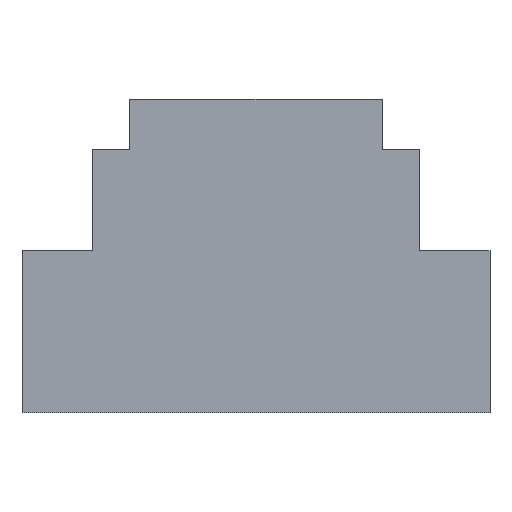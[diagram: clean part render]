
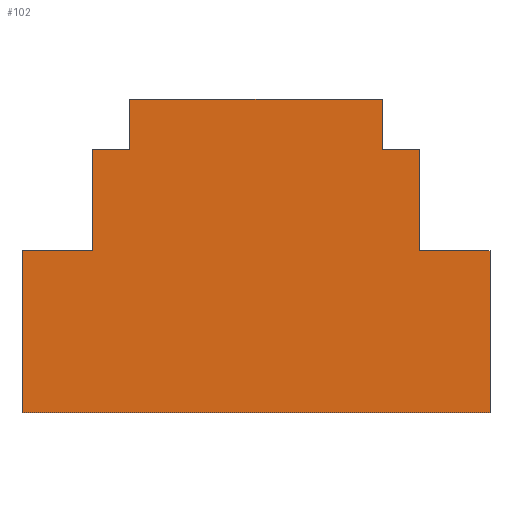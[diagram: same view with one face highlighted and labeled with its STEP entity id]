
A CAD part, top view. The second image highlights one B-rep face of the part: STEP entity #102.
In plain terms, the highlighted planar face has unit normal (0, 0, 1).
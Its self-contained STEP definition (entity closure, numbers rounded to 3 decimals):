
#75=FACE_OUTER_BOUND('',#201,.T.);
#102=ADVANCED_FACE('',(#75),#137,.T.);
#137=PLANE('',#589);
#201=EDGE_LOOP('',(#292,#293,#294,#295,#296,#297,#298,#299,#300,#301,#302,
#303));
#292=ORIENTED_EDGE('',*,*,#410,.T.);
#293=ORIENTED_EDGE('',*,*,#418,.T.);
#294=ORIENTED_EDGE('',*,*,#421,.T.);
#295=ORIENTED_EDGE('',*,*,#424,.T.);
#296=ORIENTED_EDGE('',*,*,#431,.T.);
#297=ORIENTED_EDGE('',*,*,#434,.T.);
#298=ORIENTED_EDGE('',*,*,#437,.T.);
#299=ORIENTED_EDGE('',*,*,#440,.T.);
#300=ORIENTED_EDGE('',*,*,#447,.T.);
#301=ORIENTED_EDGE('',*,*,#450,.T.);
#302=ORIENTED_EDGE('',*,*,#453,.T.);
#303=ORIENTED_EDGE('',*,*,#455,.T.);
#362=VERTEX_POINT('',#777);
#363=VERTEX_POINT('',#779);
#369=VERTEX_POINT('',#793);
#371=VERTEX_POINT('',#799);
#373=VERTEX_POINT('',#805);
#379=VERTEX_POINT('',#819);
#381=VERTEX_POINT('',#825);
#383=VERTEX_POINT('',#831);
#385=VERTEX_POINT('',#837);
#391=VERTEX_POINT('',#851);
#393=VERTEX_POINT('',#857);
#395=VERTEX_POINT('',#863);
#410=EDGE_CURVE('',#363,#362,#474,.T.);
#418=EDGE_CURVE('',#362,#369,#482,.T.);
#421=EDGE_CURVE('',#369,#371,#485,.T.);
#424=EDGE_CURVE('',#371,#373,#488,.T.);
#431=EDGE_CURVE('',#373,#379,#491,.T.);
#434=EDGE_CURVE('',#379,#381,#494,.T.);
#437=EDGE_CURVE('',#381,#383,#497,.T.);
#440=EDGE_CURVE('',#383,#385,#500,.T.);
#447=EDGE_CURVE('',#385,#391,#503,.T.);
#450=EDGE_CURVE('',#391,#393,#506,.T.);
#453=EDGE_CURVE('',#393,#395,#509,.T.);
#455=EDGE_CURVE('',#395,#363,#511,.T.);
#474=LINE('',#778,#522);
#482=LINE('',#794,#530);
#485=LINE('',#800,#533);
#488=LINE('',#806,#536);
#491=LINE('',#820,#539);
#494=LINE('',#826,#542);
#497=LINE('',#832,#545);
#500=LINE('',#838,#548);
#503=LINE('',#852,#551);
#506=LINE('',#858,#554);
#509=LINE('',#864,#557);
#511=LINE('',#867,#559);
#522=VECTOR('',#624,1.);
#530=VECTOR('',#634,1.);
#533=VECTOR('',#639,1.);
#536=VECTOR('',#644,1.);
#539=VECTOR('',#657,1.);
#542=VECTOR('',#662,1.);
#545=VECTOR('',#667,1.);
#548=VECTOR('',#672,1.);
#551=VECTOR('',#685,1.);
#554=VECTOR('',#690,1.);
#557=VECTOR('',#695,1.);
#559=VECTOR('',#699,1.);
#589=AXIS2_PLACEMENT_3D('',#869,#702,#703);
#624=DIRECTION('',(-1.,0.,0.));
#634=DIRECTION('',(0.,-1.,0.));
#639=DIRECTION('',(-1.,0.,0.));
#644=DIRECTION('',(0.,-1.,0.));
#657=DIRECTION('',(-1.,0.,0.));
#662=DIRECTION('',(0.,-1.,0.));
#667=DIRECTION('',(1.,0.,0.));
#672=DIRECTION('',(0.,1.,0.));
#685=DIRECTION('',(-1.,0.,0.));
#690=DIRECTION('',(0.,1.,0.));
#695=DIRECTION('',(-1.,0.,0.));
#699=DIRECTION('',(0.,1.,0.));
#702=DIRECTION('',(0.,0.,1.));
#703=DIRECTION('',(1.,0.,0.));
#777=CARTESIAN_POINT('',(-23.75,59.,24.));
#778=CARTESIAN_POINT('',(0.,59.,24.));
#779=CARTESIAN_POINT('',(23.75,59.,24.));
#793=CARTESIAN_POINT('',(-23.75,49.5,24.));
#794=CARTESIAN_POINT('',(-23.75,59.,24.));
#799=CARTESIAN_POINT('',(-30.75,49.5,24.));
#800=CARTESIAN_POINT('',(-23.75,49.5,24.));
#805=CARTESIAN_POINT('',(-30.75,30.5,24.));
#806=CARTESIAN_POINT('',(-30.75,49.5,24.));
#819=CARTESIAN_POINT('',(-44.,30.5,24.));
#820=CARTESIAN_POINT('',(-30.75,30.5,24.));
#825=CARTESIAN_POINT('',(-44.,0.,24.));
#826=CARTESIAN_POINT('',(-44.,30.5,24.));
#831=CARTESIAN_POINT('',(44.,0.,24.));
#832=CARTESIAN_POINT('',(-44.,0.,24.));
#837=CARTESIAN_POINT('',(44.,30.5,24.));
#838=CARTESIAN_POINT('',(44.,0.,24.));
#851=CARTESIAN_POINT('',(30.75,30.5,24.));
#852=CARTESIAN_POINT('',(44.,30.5,24.));
#857=CARTESIAN_POINT('',(30.75,49.5,24.));
#858=CARTESIAN_POINT('',(30.75,30.5,24.));
#863=CARTESIAN_POINT('',(23.75,49.5,24.));
#864=CARTESIAN_POINT('',(30.75,49.5,24.));
#867=CARTESIAN_POINT('',(23.75,49.5,24.));
#869=CARTESIAN_POINT('',(0.,0.,24.));
